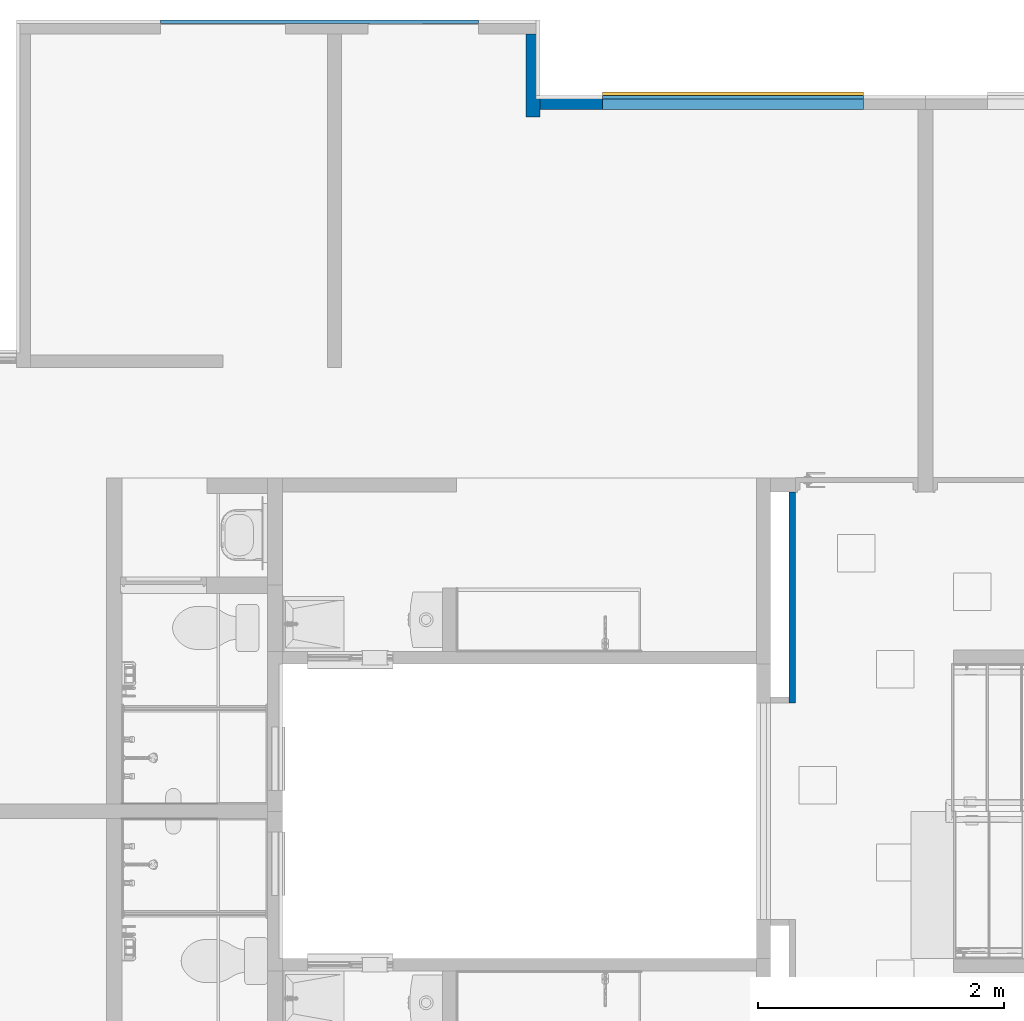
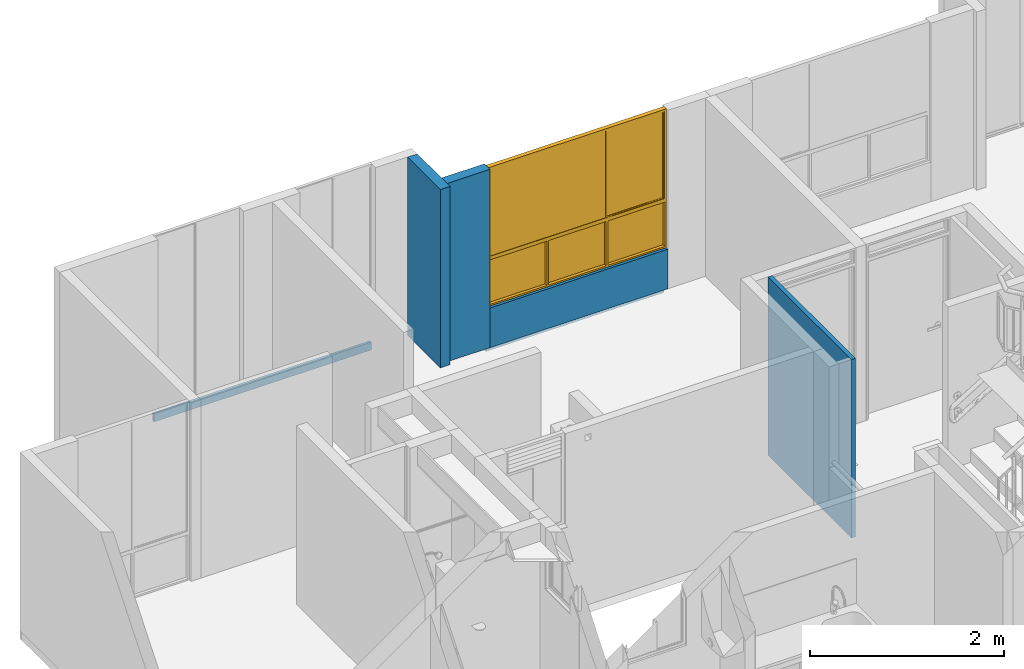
# One storey, part 19 of 48: 6 walls, 1 window, 1 opening.
"""IFC4 building model written with IfcOpenShell, lengths in metres."""

from ifc_helpers import new_model, entity, si_unit, converted_unit, derived_unit, direction, frame, origin, place, context, subcontext, project, spatial, indexed_curve, outline, extrude, polygons, source, transform, mapped, material, constituent, constituent_set, type_object, type_shapes, element, fill, save


model = new_model("IFC4")

# Units and contexts
model_context = context("Model", 3, precision=1e-05, world=origin(), true_north=direction((6.123031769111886e-17, 1.0)))
body_context = subcontext(model_context, "Body", "Model", "MODEL_VIEW")
ifc_project = project(units=[si_unit("LENGTHUNIT", "METRE"), si_unit("AREAUNIT", "SQUARE_METRE"), si_unit("VOLUMEUNIT", "CUBIC_METRE"), converted_unit("PLANEANGLEUNIT", "DEGREE", entity("IfcRatioMeasure", 0.017453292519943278), si_unit("PLANEANGLEUNIT", "RADIAN"), dimensions=[0, 0, 0, 0, 0, 0, 0]), si_unit("MASSUNIT", "GRAM", prefix="KILO"), derived_unit("MASSDENSITYUNIT", [(si_unit("MASSUNIT", "GRAM", prefix="KILO"), 1), (si_unit("LENGTHUNIT", "METRE"), -3)]), derived_unit("IONCONCENTRATIONUNIT", [(si_unit("MASSUNIT", "GRAM", prefix="KILO"), 1), (si_unit("LENGTHUNIT", "METRE"), -3)]), derived_unit("MOMENTOFINERTIAUNIT", [(si_unit("LENGTHUNIT", "METRE"), 4)]), si_unit("TIMEUNIT", "SECOND"), si_unit("FREQUENCYUNIT", "HERTZ"), si_unit("THERMODYNAMICTEMPERATUREUNIT", "DEGREE_CELSIUS"), derived_unit("THERMALTRANSMITTANCEUNIT", [(si_unit("MASSUNIT", "GRAM", prefix="KILO"), 1), (si_unit("THERMODYNAMICTEMPERATUREUNIT", "KELVIN"), -1), (si_unit("TIMEUNIT", "SECOND"), -3)]), derived_unit("THERMALCONDUCTANCEUNIT", [(si_unit("MASSUNIT", "GRAM", prefix="KILO"), 1), (si_unit("THERMODYNAMICTEMPERATUREUNIT", "KELVIN"), -1), (si_unit("TIMEUNIT", "SECOND"), -3), (si_unit("LENGTHUNIT", "METRE"), 1)]), derived_unit("VOLUMETRICFLOWRATEUNIT", [(si_unit("LENGTHUNIT", "METRE"), 3), (si_unit("TIMEUNIT", "SECOND"), -1)]), derived_unit("MASSFLOWRATEUNIT", [(si_unit("MASSUNIT", "GRAM", prefix="KILO"), 1), (si_unit("TIMEUNIT", "SECOND"), -1)]), derived_unit("ROTATIONALFREQUENCYUNIT", [(si_unit("TIMEUNIT", "SECOND"), -1)]), si_unit("ELECTRICCURRENTUNIT", "AMPERE"), si_unit("ELECTRICVOLTAGEUNIT", "VOLT"), si_unit("POWERUNIT", "WATT"), si_unit("FORCEUNIT", "NEWTON", prefix="KILO"), si_unit("ILLUMINANCEUNIT", "LUX"), si_unit("LUMINOUSFLUXUNIT", "LUMEN"), si_unit("LUMINOUSINTENSITYUNIT", "CANDELA"), derived_unit("USERDEFINED", [(si_unit("MASSUNIT", "GRAM", prefix="KILO"), -1), (si_unit("LENGTHUNIT", "METRE"), -2), (si_unit("TIMEUNIT", "SECOND"), 3), (si_unit("LUMINOUSFLUXUNIT", "LUMEN"), 1)]), derived_unit("USERDEFINED", [(si_unit("MASSUNIT", "GRAM", prefix="KILO"), 1), (si_unit("TIMEUNIT", "SECOND"), -3), (si_unit("LENGTHUNIT", "METRE"), 3), (si_unit("ELECTRICCURRENTUNIT", "AMPERE"), -2)]), derived_unit("SOUNDPOWERUNIT", [(si_unit("MASSUNIT", "GRAM", prefix="KILO"), 1), (si_unit("TIMEUNIT", "SECOND"), -3), (si_unit("LENGTHUNIT", "METRE"), 2)]), derived_unit("SOUNDPRESSUREUNIT", [(si_unit("MASSUNIT", "GRAM", prefix="KILO"), 1), (si_unit("LENGTHUNIT", "METRE"), -1), (si_unit("TIMEUNIT", "SECOND"), -2)]), derived_unit("LINEARVELOCITYUNIT", [(si_unit("LENGTHUNIT", "METRE"), 1), (si_unit("TIMEUNIT", "SECOND"), -1)]), si_unit("PRESSUREUNIT", "PASCAL"), derived_unit("USERDEFINED", [(si_unit("MASSUNIT", "GRAM", prefix="KILO"), 1), (si_unit("LENGTHUNIT", "METRE"), -2), (si_unit("TIMEUNIT", "SECOND"), -2)]), derived_unit("LINEARFORCEUNIT", [(si_unit("MASSUNIT", "GRAM", prefix="KILO"), 1), (si_unit("TIMEUNIT", "SECOND"), -2)]), derived_unit("PLANARFORCEUNIT", [(si_unit("MASSUNIT", "GRAM", prefix="KILO"), 1), (si_unit("LENGTHUNIT", "METRE"), -1), (si_unit("TIMEUNIT", "SECOND"), -2)]), derived_unit("SPECIFICHEATCAPACITYUNIT", [(si_unit("THERMODYNAMICTEMPERATUREUNIT", "KELVIN"), -1), (si_unit("LENGTHUNIT", "METRE"), 2), (si_unit("TIMEUNIT", "SECOND"), -2)]), derived_unit("HEATINGVALUEUNIT", [(si_unit("LENGTHUNIT", "METRE"), 2), (si_unit("TIMEUNIT", "SECOND"), -2)]), derived_unit("VAPORPERMEABILITYUNIT", [(si_unit("LENGTHUNIT", "METRE"), -1), (si_unit("TIMEUNIT", "SECOND"), 1)]), derived_unit("DYNAMICVISCOSITYUNIT", [(si_unit("MASSUNIT", "GRAM", prefix="KILO"), 1), (si_unit("TIMEUNIT", "SECOND"), -1), (si_unit("LENGTHUNIT", "METRE"), -1)]), derived_unit("THERMALEXPANSIONCOEFFICIENTUNIT", [(si_unit("THERMODYNAMICTEMPERATUREUNIT", "KELVIN"), -1)]), derived_unit("MODULUSOFELASTICITYUNIT", [(si_unit("MASSUNIT", "GRAM", prefix="KILO"), 1), (si_unit("LENGTHUNIT", "METRE"), -1), (si_unit("TIMEUNIT", "SECOND"), -2)]), derived_unit("ISOTHERMALMOISTURECAPACITYUNIT", [(si_unit("LENGTHUNIT", "METRE"), 3), (si_unit("MASSUNIT", "GRAM", prefix="KILO"), -1)]), derived_unit("MOISTUREDIFFUSIVITYUNIT", [(si_unit("TIMEUNIT", "SECOND"), -1), (si_unit("LENGTHUNIT", "METRE"), 2)])], contexts=[model_context])

# Site, building, storey
site_placement = place(None, origin())
site = spatial("IfcSite", under=ifc_project, at=site_placement, Name="Default", CompositionType="ELEMENT")
building_placement = place(site_placement, origin())
building = spatial("IfcBuilding", under=site, at=building_placement, CompositionType="ELEMENT")
storey_placement = place(building_placement, frame((0.0, 0.0, 4.700000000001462)))
storey = spatial("IfcBuildingStorey", under=building, at=storey_placement, Name="Nivel 3", CompositionType="ELEMENT", Elevation=4.700000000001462)

# Wall
ifc_material_1 = material(Name="Ladrillo claro (Aire)", Category="Materials")
wall_type_1 = type_object("IfcWallType", Name="Basic Wall:B2010 - 0.115m - Muro exterior en mampostería - Ladrillo", PredefinedType="STANDARD")
wall_1_placement = place(storey_placement, frame((6.124999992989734, -0.09500002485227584, 0.0), z_axis=(0.0, 0.0, 1.0), x_axis=(0.0, -1.0, 0.0)))
element("IfcWall", 1, at=wall_1_placement, inside=storey, type_object=wall_type_1, material=ifc_material_1, Name="Basic Wall:B2010 - 0.115m - Muro exterior en mampostería - Ladrillo", ObjectType="Basic Wall:B2010 - 0.115m - Muro exterior en mampostería - Ladrillo", PredefinedType="NOTDEFINED", context=body_context, shape_type="SweptSolid", body=[
    extrude(outline(indexed_curve([(0.674918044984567, 0.05749999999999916), (1.6929241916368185e-18, 0.057499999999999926), (-1.6929241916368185e-18, -0.057499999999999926), (0.674918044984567, -0.05750000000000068), (0.674918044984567, 0.05749999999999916)], self_intersect=False)), origin(), (0.0, 0.0, 1.0), 2.2500000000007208),
])

# Wall, opening, window
wall_2_placement = place(storey_placement, frame((6.692499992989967, -0.6525000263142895, 0.0)))
wall_2 = element("IfcWall", 2, at=wall_2_placement, inside=storey, type_object=wall_type_1, material=ifc_material_1, Name="Basic Wall:B2010 - 0.115m - Muro exterior en mampostería - Ladrillo", ObjectType="Basic Wall:B2010 - 0.115m - Muro exterior en mampostería - Ladrillo", PredefinedType="NOTDEFINED", context=body_context, shape_type="Tessellation", body=[
    polygons([(4.788365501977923e-16, -0.05750000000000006, -5.414335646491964e-16), (2.1249999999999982, -0.05750000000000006, -5.414335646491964e-16), (2.1249999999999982, -0.05750000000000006, 0.5000000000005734), (4.788365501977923e-16, -0.05750000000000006, 0.5000000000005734), (2.1249999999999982, 0.05749999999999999, -5.414335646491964e-16), (5.461691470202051e-16, 0.05749999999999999, -5.414335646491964e-16), (5.461691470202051e-16, 0.05749999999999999, 0.5000000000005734), (2.1249999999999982, 0.05749999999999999, 0.5000000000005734)], [[[1, 2, 3, 4]], [[5, 6, 7, 8]], [[2, 1, 6, 5]], [[2, 5, 8, 3]], [[6, 1, 4, 7]], [[4, 3, 8, 7]]], closed=True),
])
opening_placement = place(wall_2_placement, frame((0.0, -0.0575000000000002, 0.4999999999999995)))
opening = element("IfcOpeningElement", 3, at=opening_placement, cuts=wall_2, Name="B2020 - 6c Ventana corrediza - Aluminio + Vidrio:B2020 -2.13m x 1.750m - Ventana corrediza 2C - Aluminio + Vidrio:1", PredefinedType="OPENING", context=body_context, shape_type="SweptSolid", body=[
    extrude(outline(indexed_curve([(0.0, 2.125), (0.0, 0.0), (1.7499999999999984, 0.0), (1.7499999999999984, 2.125), (0.0, 2.125)], self_intersect=False)), frame((0.0, 0.0, 0.0), z_axis=(0.0, 1.0, 0.0), x_axis=(0.0, 0.0, 1.0)), (0.0, 0.0, 1.0), 0.115),
])
ifc_material_2 = material(Name="Aluminio", Category="Materials")
ifc_constituent_1 = constituent(ifc_material_2, Name="Aluminio", Category="Materials")
ifc_material_3 = material(Name="Vidrio", Category="Materials")
ifc_constituent_2 = constituent(ifc_material_3, Name="Vidrio", Category="Materials")
ifc_material_4 = material(Name="Alfajía en aluminio", Category="Materials")
ifc_constituent_3 = constituent(ifc_material_4, Name="Alfajía en aluminio", Category="Materials")
ifc_constituent_set_1 = constituent_set(constituents=[ifc_constituent_1, ifc_constituent_2, ifc_constituent_3])
ifc_constituent_4 = constituent(ifc_material_2, Name="Aluminio", Category="Materials")
ifc_constituent_5 = constituent(ifc_material_3, Name="Vidrio", Category="Materials")
ifc_constituent_6 = constituent(ifc_material_4, Name="Alfajía en aluminio", Category="Materials")
ifc_constituent_set_2 = constituent_set(constituents=[ifc_constituent_4, ifc_constituent_5, ifc_constituent_6])
window_type = type_object("IfcWindowType", Name="B2020 - 6c Ventana corrediza - Aluminio + Vidrio:B2020 -2.13m x 1.750m - Ventana corrediza 2C - Aluminio + Vidrio", PartitioningType="NOTDEFINED", PredefinedType="WINDOW", material=ifc_constituent_set_2)
shared_shape = source(origin(), body_context, "Body", "Tessellation", [
    polygons([(1.3916666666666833, 0.03749999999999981, 1.7249999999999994), (1.3916666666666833, 0.03749999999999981, 0.6249999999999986), (1.391666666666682, 0.032499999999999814, 0.6249999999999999), (1.3916666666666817, 0.032499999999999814, 1.7249999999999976), (-0.6833333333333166, 0.03249999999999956, 0.6249999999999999), (-0.6833333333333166, 0.032499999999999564, 1.7249999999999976), (-0.7083333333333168, 0.03249999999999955, 0.5999999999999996), (1.4166666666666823, 0.032499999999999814, 0.5999999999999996), (1.4166666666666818, 0.032499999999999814, 1.749999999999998), (-0.7083333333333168, 0.03249999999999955, 1.749999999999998), (-0.6833333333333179, 0.03749999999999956, 0.6249999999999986), (-0.6833333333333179, 0.03749999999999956, 1.7249999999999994), (-0.6883333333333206, 0.03749999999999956, 0.6199999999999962), (-0.6883333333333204, 0.03749999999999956, 1.7300000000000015), (1.3966666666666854, 0.03749999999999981, 1.7300000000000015), (1.3966666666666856, 0.03749999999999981, 0.6199999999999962), (1.3966666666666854, 0.05499999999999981, 1.7300000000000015), (1.3966666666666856, 0.05499999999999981, 0.6199999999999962), (-0.6883333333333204, 0.05499999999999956, 0.6199999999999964), (-0.6883333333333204, 0.05499999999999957, 1.7300000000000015), (-0.6833333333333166, 0.05499999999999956, 0.6249999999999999), (-0.6833333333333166, 0.05499999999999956, 1.7249999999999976), (1.3916666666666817, 0.05499999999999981, 1.7249999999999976), (1.391666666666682, 0.05499999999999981, 0.6249999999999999), (1.3916666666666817, 0.05999999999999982, 1.7249999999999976), (1.391666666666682, 0.05999999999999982, 0.6249999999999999), (-0.6833333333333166, 0.059999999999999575, 0.6249999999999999), (-0.6833333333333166, 0.059999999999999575, 1.7249999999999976), (-0.7033333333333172, 0.05999999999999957, 0.6049999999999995), (-0.7033333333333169, 0.05999999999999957, 1.744999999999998), (1.411666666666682, 0.05999999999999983, 1.744999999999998), (1.4116666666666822, 0.05999999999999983, 0.6049999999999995), (1.411666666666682, 0.07749999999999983, 1.744999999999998), (1.4116666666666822, 0.07749999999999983, 0.6049999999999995), (-0.7033333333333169, 0.07749999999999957, 0.6049999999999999), (-0.7033333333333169, 0.07749999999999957, 1.744999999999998), (-0.6833333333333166, 0.07749999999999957, 0.6249999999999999), (-0.6833333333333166, 0.07749999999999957, 1.7249999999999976), (1.3916666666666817, 0.07749999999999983, 1.7249999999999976), (1.391666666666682, 0.07749999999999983, 0.6249999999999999), (1.3916666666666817, 0.08249999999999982, 1.7249999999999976), (1.391666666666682, 0.08249999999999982, 0.6249999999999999), (-0.6833333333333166, 0.08249999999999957, 0.6249999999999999), (-0.6833333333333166, 0.08249999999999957, 1.7249999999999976), (-0.7083333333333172, 0.08249999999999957, 0.5999999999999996), (-0.7083333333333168, 0.08249999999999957, 1.749999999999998), (1.4166666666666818, 0.08249999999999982, 1.749999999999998), (1.4166666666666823, 0.08249999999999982, 0.5999999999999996)], [[[1, 2, 3, 4]], [[7, 8, 9, 10], [5, 6, 4, 3]], [[2, 11, 5, 3]], [[13, 14, 15, 16], [11, 2, 1, 12]], [[17, 18, 16, 15]], [[18, 19, 13, 16]], [[19, 18, 17, 20], [21, 22, 23, 24]], [[25, 26, 24, 23]], [[26, 27, 21, 24]], [[29, 30, 31, 32], [27, 26, 25, 28]], [[33, 34, 32, 31]], [[34, 35, 29, 32]], [[35, 34, 33, 36], [37, 38, 39, 40]], [[41, 42, 40, 39]], [[42, 43, 37, 40]], [[45, 46, 47, 48], [43, 42, 41, 44]], [[9, 8, 48, 47]], [[8, 7, 45, 48]], [[11, 12, 6, 5]], [[19, 20, 14, 13]], [[27, 28, 22, 21]], [[35, 36, 30, 29]], [[43, 44, 38, 37]], [[7, 10, 46, 45]], [[12, 1, 4, 6]], [[20, 17, 15, 14]], [[28, 25, 23, 22]], [[36, 33, 31, 30]], [[44, 41, 39, 38]], [[10, 9, 47, 46]]], closed=True),
    polygons([(-0.009999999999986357, 0.08249999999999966, 0.6249999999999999), (0.010000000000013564, 0.08249999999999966, 0.6249999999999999), (0.010000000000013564, 0.05999999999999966, 0.6249999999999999), (-0.009999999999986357, 0.05999999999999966, 0.6249999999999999), (-0.009999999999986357, 0.08249999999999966, 1.7249999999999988), (-0.009999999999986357, 0.05999999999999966, 1.7249999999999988), (0.010000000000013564, 0.05999999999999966, 1.7249999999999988), (0.010000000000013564, 0.08249999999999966, 1.7249999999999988)], [[[1, 2, 3, 4]], [[5, 1, 4, 6]], [[6, 4, 3, 7]], [[7, 3, 2, 8]], [[8, 2, 1, 5]], [[5, 6, 7, 8]]], closed=True),
    polygons([(0.7108333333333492, 0.06674999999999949, 1.7299999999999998), (-0.6833333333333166, 0.06674999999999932, 1.7299999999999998), (-0.6833333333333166, 0.06674999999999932, 0.6174999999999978), (0.7108333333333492, 0.06674999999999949, 0.6174999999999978), (0.7108333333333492, 0.0707499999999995, 0.6174999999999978), (0.7108333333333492, 0.0707499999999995, 1.7299999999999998), (-0.6833333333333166, 0.07074999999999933, 0.6174999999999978), (-0.6833333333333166, 0.07074999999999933, 1.7299999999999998)], [[[1, 2, 3, 4]], [[4, 5, 6, 1]], [[3, 7, 5, 4]], [[2, 8, 7, 3]], [[6, 5, 7, 8]], [[1, 6, 8, 2]]], closed=True),
    polygons([(0.7108333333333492, 0.07074999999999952, 0.6225000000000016), (-0.6783333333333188, 0.07074999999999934, 0.6225000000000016), (-0.6783333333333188, 0.06674999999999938, 0.6225000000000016), (0.7108333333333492, 0.06674999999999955, 0.6225000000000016), (-0.6783333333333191, 0.07074999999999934, 1.730000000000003), (-0.6783333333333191, 0.06674999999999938, 1.730000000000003), (0.7108333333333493, 0.06674999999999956, 1.730000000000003), (-0.6633333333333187, 0.06674999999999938, 1.7150000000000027), (-0.6633333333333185, 0.06674999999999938, 0.637500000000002), (0.695833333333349, 0.06674999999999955, 0.637500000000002), (0.695833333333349, 0.06674999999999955, 1.7150000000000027), (0.7108333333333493, 0.07074999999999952, 1.730000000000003), (-0.6633333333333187, 0.07074999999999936, 0.637500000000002), (-0.6633333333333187, 0.07074999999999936, 1.7150000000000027), (0.695833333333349, 0.07074999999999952, 1.7150000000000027), (0.695833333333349, 0.07074999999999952, 0.6375000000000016), (0.695833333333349, 0.07549999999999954, 0.637500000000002), (-0.6633333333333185, 0.07549999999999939, 0.6375000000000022), (-0.6633333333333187, 0.07549999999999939, 1.7150000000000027), (0.695833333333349, 0.07549999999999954, 1.7150000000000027), (-0.6833333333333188, 0.07549999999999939, 0.6175000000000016), (-0.683333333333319, 0.07549999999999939, 1.735000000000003), (0.7158333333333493, 0.07549999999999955, 1.735000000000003), (0.7158333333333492, 0.07549999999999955, 0.6175000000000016), (0.7158333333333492, 0.06199999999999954, 0.6175000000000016), (-0.6833333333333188, 0.061999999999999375, 0.6175000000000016), (-0.683333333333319, 0.061999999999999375, 1.735000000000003), (0.7158333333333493, 0.06199999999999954, 1.735000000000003), (-0.6633333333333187, 0.06199999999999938, 0.637500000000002), (-0.6633333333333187, 0.06199999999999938, 1.7150000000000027), (0.695833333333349, 0.06199999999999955, 1.7150000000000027), (0.695833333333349, 0.06199999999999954, 0.6375000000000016)], [[[1, 2, 3, 4]], [[2, 5, 6, 3]], [[3, 6, 7, 4], [8, 9, 10, 11]], [[5, 2, 1, 12], [13, 14, 15, 16]], [[17, 18, 13, 16]], [[18, 19, 14, 13]], [[21, 22, 23, 24], [19, 18, 17, 20]], [[25, 26, 21, 24]], [[26, 27, 22, 21]], [[27, 26, 25, 28], [29, 30, 31, 32]], [[10, 9, 29, 32]], [[9, 8, 30, 29]], [[12, 1, 4, 7]], [[20, 17, 16, 15]], [[28, 25, 24, 23]], [[11, 10, 32, 31]], [[5, 12, 7, 6]], [[19, 20, 15, 14]], [[27, 28, 23, 22]], [[8, 11, 31, 30]]], closed=True),
    polygons([(1.3916666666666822, 0.04424999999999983, 1.7299999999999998), (0.7033333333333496, 0.04424999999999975, 1.7299999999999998), (0.7033333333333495, 0.04424999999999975, 0.6174999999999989), (1.391666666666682, 0.04424999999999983, 0.6174999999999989), (1.391666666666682, 0.04824999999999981, 0.6174999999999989), (1.3916666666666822, 0.04824999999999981, 1.7299999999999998), (0.7033333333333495, 0.048249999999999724, 0.6174999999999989), (0.7033333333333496, 0.048249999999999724, 1.7299999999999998)], [[[1, 2, 3, 4]], [[4, 5, 6, 1]], [[3, 7, 5, 4]], [[2, 8, 7, 3]], [[6, 5, 7, 8]], [[1, 6, 8, 2]]], closed=True),
    polygons([(1.391666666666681, 0.04824999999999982, 0.6224999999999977), (0.7033333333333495, 0.04824999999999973, 0.6224999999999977), (0.7033333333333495, 0.044249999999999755, 0.6224999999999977), (1.391666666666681, 0.04424999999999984, 0.6224999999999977), (0.7033333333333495, 0.04824999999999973, 1.729999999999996), (0.7033333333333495, 0.044249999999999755, 1.729999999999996), (1.391666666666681, 0.04424999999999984, 1.729999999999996), (0.7183333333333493, 0.044249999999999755, 1.714999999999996), (0.7183333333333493, 0.044249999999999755, 0.6374999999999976), (1.3766666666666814, 0.04424999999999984, 0.6374999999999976), (1.3766666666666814, 0.04424999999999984, 1.714999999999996), (1.391666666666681, 0.04824999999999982, 1.729999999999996), (0.7183333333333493, 0.04824999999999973, 0.6374999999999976), (0.7183333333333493, 0.04824999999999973, 1.714999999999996), (1.3766666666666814, 0.04824999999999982, 1.714999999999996), (1.3766666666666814, 0.04824999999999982, 0.6374999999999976), (1.3766666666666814, 0.052999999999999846, 0.6374999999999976), (0.7183333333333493, 0.05299999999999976, 0.6374999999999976), (0.7183333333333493, 0.05299999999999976, 1.714999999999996), (1.3766666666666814, 0.052999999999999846, 1.714999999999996), (0.6983333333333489, 0.052999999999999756, 0.6174999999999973), (0.6983333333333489, 0.05299999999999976, 1.7349999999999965), (1.3966666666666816, 0.052999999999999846, 1.7349999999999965), (1.3966666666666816, 0.052999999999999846, 0.6174999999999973), (1.3966666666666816, 0.03949999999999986, 0.6174999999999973), (0.6983333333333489, 0.03949999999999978, 0.6174999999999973), (0.6983333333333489, 0.03949999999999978, 1.7349999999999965), (1.3966666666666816, 0.03949999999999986, 1.7349999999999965), (0.7183333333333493, 0.039499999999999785, 0.6374999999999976), (0.7183333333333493, 0.03949999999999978, 1.714999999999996), (1.3766666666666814, 0.039499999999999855, 1.714999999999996), (1.3766666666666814, 0.039499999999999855, 0.6374999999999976)], [[[1, 2, 3, 4]], [[2, 5, 6, 3]], [[3, 6, 7, 4], [8, 9, 10, 11]], [[5, 2, 1, 12], [13, 14, 15, 16]], [[17, 18, 13, 16]], [[18, 19, 14, 13]], [[21, 22, 23, 24], [19, 18, 17, 20]], [[25, 26, 21, 24]], [[26, 27, 22, 21]], [[27, 26, 25, 28], [29, 30, 31, 32]], [[10, 9, 29, 32]], [[9, 8, 30, 29]], [[12, 1, 4, 7]], [[20, 17, 16, 15]], [[28, 25, 24, 23]], [[11, 10, 32, 31]], [[5, 12, 7, 6]], [[19, 20, 15, 14]], [[27, 28, 23, 22]], [[8, 11, 31, 30]]], closed=True),
    polygons([(-0.6883333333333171, 0.04424999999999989, 1.7299999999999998), (-0.6883333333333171, 0.04424999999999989, 0.6174999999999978), (1.3916666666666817, 0.04424999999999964, 0.6174999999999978), (1.3916666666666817, 0.04424999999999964, 1.7299999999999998), (1.3916666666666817, 0.04824999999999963, 0.6174999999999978), (1.3916666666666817, 0.04824999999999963, 1.7299999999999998), (-0.6883333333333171, 0.04824999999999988, 0.6174999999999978), (-0.6883333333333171, 0.04824999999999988, 1.7299999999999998)], [[[1, 2, 3, 4]], [[3, 5, 6, 4]], [[2, 7, 5, 3]], [[1, 8, 7, 2]], [[8, 6, 5, 7]], [[4, 6, 8, 1]]], closed=True),
    polygons([(1.3966666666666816, 0.06674999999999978, 1.7299999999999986), (-0.6883333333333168, 0.06674999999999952, 1.7299999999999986), (-0.6883333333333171, 0.06674999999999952, 0.6174999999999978), (1.3966666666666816, 0.06674999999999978, 0.6174999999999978), (1.3966666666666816, 0.07074999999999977, 0.6174999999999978), (1.3966666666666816, 0.07074999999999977, 1.7299999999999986), (-0.6883333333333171, 0.07074999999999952, 0.6174999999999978), (-0.6883333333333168, 0.07074999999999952, 1.7299999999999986)], [[[1, 2, 3, 4]], [[4, 5, 6, 1]], [[3, 7, 5, 4]], [[2, 8, 7, 3]], [[6, 5, 7, 8]], [[1, 6, 8, 2]]], closed=True),
    polygons([(1.3966666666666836, 0.06813901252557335, 0.5800000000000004), (-0.6883333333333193, 0.06813901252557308, 0.5800000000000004), (-0.6883333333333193, 0.06813901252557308, 0.019999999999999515), (1.3966666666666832, 0.06813901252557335, 0.019999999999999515), (1.3966666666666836, 0.07213901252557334, 0.5800000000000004), (1.3966666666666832, 0.07213901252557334, 0.019999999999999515), (-0.6883333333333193, 0.07213901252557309, 0.019999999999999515), (-0.6883333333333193, 0.07213901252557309, 0.5800000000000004)], [[[1, 2, 3, 4]], [[5, 6, 7, 8]], [[4, 6, 5, 1]], [[3, 7, 6, 4]], [[2, 8, 7, 3]], [[1, 5, 8, 2]]], closed=True),
    polygons([(-0.009999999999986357, 0.08250000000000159, 0.5799999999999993), (-0.009999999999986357, 0.03250000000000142, 0.5799999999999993), (0.010000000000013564, 0.03250000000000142, 0.5799999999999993), (0.010000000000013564, 0.08250000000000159, 0.5799999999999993), (-0.009999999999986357, 0.08250000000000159, 0.019999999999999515), (0.010000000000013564, 0.08250000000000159, 0.019999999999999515), (0.010000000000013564, 0.03250000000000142, 0.019999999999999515), (-0.009999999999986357, 0.03250000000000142, 0.019999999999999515)], [[[1, 2, 3, 4]], [[5, 6, 7, 8]], [[4, 6, 5, 1]], [[3, 7, 6, 4]], [[2, 8, 7, 3]], [[1, 5, 8, 2]]], closed=True),
    polygons([(1.4166666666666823, 0.08249999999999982, 2.707167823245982e-16), (-0.7083333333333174, 0.08249999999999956, 4.060751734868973e-16), (-0.7083333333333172, 0.08249999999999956, 0.5999999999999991), (1.4166666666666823, 0.08249999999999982, 0.5999999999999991), (0.6983333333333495, 0.08250000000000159, 0.5799999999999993), (-0.6883333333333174, 0.0825000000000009, 0.5799999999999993), (-0.6883333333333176, 0.0825000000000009, 0.020000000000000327), (0.6983333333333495, 0.08250000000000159, 0.01999999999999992), (0.7183333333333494, 0.08250000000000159, 0.01999999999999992), (1.3966666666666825, 0.08250000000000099, 0.020000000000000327), (1.3966666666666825, 0.08250000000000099, 0.5799999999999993), (0.7183333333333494, 0.08250000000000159, 0.5799999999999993), (0.7183333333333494, 0.03250000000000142, 0.5799999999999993), (0.7183333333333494, 0.03250000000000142, 0.01999999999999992), (1.4166666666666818, 0.03250000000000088, 0.5999999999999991), (-0.7083333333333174, 0.0325000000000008, 0.5999999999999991), (-0.7083333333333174, 0.0325000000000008, 4.060751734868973e-16), (1.4166666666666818, 0.03250000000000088, 4.060751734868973e-16), (1.3966666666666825, 0.032499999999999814, 0.5799999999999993), (1.3966666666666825, 0.032499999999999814, 0.020000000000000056), (0.6983333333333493, 0.03250000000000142, 0.01999999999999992), (-0.6883333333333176, 0.03249999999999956, 0.020000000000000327), (-0.6883333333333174, 0.03249999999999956, 0.5799999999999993), (0.6983333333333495, 0.03250000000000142, 0.5799999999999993)], [[[1, 2, 3, 4], [5, 6, 7, 8], [9, 10, 11, 12]], [[12, 13, 14, 9]], [[15, 16, 17, 18], [13, 19, 20, 14], [21, 22, 23, 24]], [[8, 21, 24, 5]], [[11, 10, 20, 19]], [[15, 18, 1, 4]], [[10, 9, 14, 20]], [[18, 17, 2, 1]], [[7, 6, 23, 22]], [[17, 16, 3, 2]], [[6, 5, 24, 23]], [[4, 3, 16, 15]], [[19, 13, 12, 11]], [[22, 21, 8, 7]]], closed=True),
    polygons([(0.6983333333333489, 0.07213901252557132, 0.5849999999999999), (-0.6883333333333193, 0.07213901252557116, 0.5849999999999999), (-0.6883333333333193, 0.06813901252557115, 0.5849999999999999), (0.6983333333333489, 0.06813901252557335, 0.5849999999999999), (0.6983333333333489, 0.07213901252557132, 0.019999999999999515), (0.6983333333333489, 0.06813901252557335, 0.019999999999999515), (-0.6883333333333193, 0.06813901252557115, 0.019999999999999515), (-0.6883333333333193, 0.07213901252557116, 0.019999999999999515)], [[[1, 2, 3, 4]], [[5, 6, 7, 8]], [[1, 5, 8, 2]], [[2, 8, 7, 3]], [[3, 7, 6, 4]], [[4, 6, 5, 1]]], closed=True),
    polygons([(1.4166666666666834, 0.11499999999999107, -4.060751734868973e-16), (1.416666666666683, 0.1409807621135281, -0.015000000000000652), (1.416666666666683, 0.14348076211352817, -0.010669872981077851), (1.4166666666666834, 0.11633974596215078, 0.0049999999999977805), (1.4166666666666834, 0.08249999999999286, 0.0049999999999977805), (1.4166666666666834, 0.08249999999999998, -4.060751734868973e-16), (-0.7083333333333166, 0.11499999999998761, -4.060751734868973e-16), (-0.7083333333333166, 0.08249999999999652, -4.060751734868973e-16), (-0.7083333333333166, 0.0824999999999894, 0.0049999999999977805), (-0.7083333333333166, 0.11633974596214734, 0.0049999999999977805), (-0.7083333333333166, 0.1434807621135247, -0.010669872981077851), (-0.7083333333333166, 0.14098076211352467, -0.015000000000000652)], [[[1, 2, 3, 4, 5, 6]], [[7, 8, 9, 10, 11, 12]], [[6, 8, 7, 1]], [[5, 9, 8, 6]], [[4, 10, 9, 5]], [[3, 11, 10, 4]], [[2, 12, 11, 3]], [[1, 7, 12, 2]]], closed=True),
    polygons([(0.7183333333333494, 0.07213901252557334, 0.5849999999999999), (0.7183333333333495, 0.06813901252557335, 0.5849999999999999), (1.3966666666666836, 0.06813901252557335, 0.5849999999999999), (1.3966666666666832, 0.07213901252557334, 0.5849999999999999), (0.7183333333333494, 0.07213901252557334, 0.019999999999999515), (1.3966666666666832, 0.07213901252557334, 0.019999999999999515), (1.3966666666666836, 0.06813901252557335, 0.019999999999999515), (0.7183333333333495, 0.06813901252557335, 0.019999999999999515)], [[[1, 2, 3, 4]], [[5, 6, 7, 8]], [[4, 6, 5, 1]], [[3, 7, 6, 4]], [[2, 8, 7, 3]], [[1, 5, 8, 2]]], closed=True),
])
type_shapes(window_type, [shared_shape])
window_placement = place(opening_placement, frame((0.7083333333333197, 0.0, 0.0)))
window = element("IfcWindow", 4, at=window_placement, inside=storey, type_object=window_type, material=ifc_constituent_set_1, Name="B2020 - 6c Ventana corrediza - Aluminio + Vidrio:B2020 -2.13m x 1.750m - Ventana corrediza 2C - Aluminio + Vidrio", ObjectType="B2020 - 6c Ventana corrediza - Aluminio + Vidrio:B2020 -2.13m x 1.750m - Ventana corrediza 2C - Aluminio + Vidrio", OverallHeight=1.7499999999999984, OverallWidth=2.125, PartitioningType="NOTDEFINED", PredefinedType="WINDOW", context=body_context, shape_type="MappedRepresentation", body=[
    mapped(shared_shape, transform((0.0, 0.0, 0.0), scale=1.0)),
])
fill(opening, window)

# Walls
ifc_material_5 = material(Name="LADRILLO CLARO", Category="Materials")
wall_type_2 = type_object("IfcWallType", Name="Basic Wall:B2010 - 0.115m - ME mampostería no estructural - Ladrillo", PredefinedType="STANDARD")
wall_3_placement = place(storey_placement, frame((6.1824999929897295, -0.652500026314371, 0.0)))
element("IfcWall", 5, at=wall_3_placement, inside=storey, type_object=wall_type_2, material=ifc_material_5, Name="Basic Wall:B2010 - 0.115m - ME mampostería no estructural - Ladrillo", ObjectType="Basic Wall:B2010 - 0.115m - ME mampostería no estructural - Ladrillo", PredefinedType="NOTDEFINED", context=body_context, shape_type="SweptSolid", body=[
    extrude(outline(indexed_curve([(0.5100000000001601, 0.0574999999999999), (-1.646998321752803e-16, 0.057499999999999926), (1.6469983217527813e-16, -0.05750000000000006), (0.5100000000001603, -0.057500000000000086), (0.5100000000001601, 0.0574999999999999)], self_intersect=False)), origin(), (0.0, 0.0, 1.0), 2.2500000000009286),
])
ifc_material_6 = material(Name="0 muro divisorio", Category="Materials")
wall_type_3 = type_object("IfcWallType", Name="Basic Wall:B2010 - 0.05m - MI No estructural- Concreto", PredefinedType="STANDARD")
wall_4_placement = place(storey_placement, frame((8.237500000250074, -5.545000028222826, 0.0), z_axis=(0.0, 0.0, 1.0), x_axis=(0.0, 1.0, 0.0)))
element("IfcWall", 6, at=wall_4_placement, inside=storey, type_object=wall_type_3, material=ifc_material_6, Name="Basic Wall:B2010 - 0.05m - MI No estructural- Concreto", ObjectType="Basic Wall:B2010 - 0.05m - MI No estructural- Concreto", PredefinedType="NOTDEFINED", context=body_context, shape_type="SweptSolid", body=[
    extrude(outline(indexed_curve([(1.7199999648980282, 0.0249999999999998), (-1.2688523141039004e-16, 0.02499999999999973), (1.2688523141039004e-16, -0.02499999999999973), (1.7199999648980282, -0.024999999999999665), (1.7199999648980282, 0.0249999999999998)], self_intersect=False)), origin(), (0.0, 0.0, 1.0), 2.2499999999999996),
])
wall_type_4 = type_object("IfcWallType", Name="Basic Wall:B2010 - 0.03m - ME enchape  no estructural - Ladrillo", PredefinedType="STANDARD")
wall_5_placement = place(storey_placement, frame((5.68249999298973, 0.004999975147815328, -0.1000000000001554), z_axis=(0.0, 0.0, 1.0), x_axis=(-1.0, 0.0, 0.0)))
element("IfcWall", 7, at=wall_5_placement, inside=storey, type_object=wall_type_4, material=ifc_material_5, Name="Basic Wall:B2010 - 0.03m - ME enchape  no estructural - Ladrillo", ObjectType="Basic Wall:B2010 - 0.03m - ME enchape  no estructural - Ladrillo", PredefinedType="NOTDEFINED", context=body_context, shape_type="SweptSolid", body=[
    extrude(outline(indexed_curve([(2.5899999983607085, 0.015), (-1.4243869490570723e-16, 0.015), (1.424386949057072e-16, -0.014999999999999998), (2.5899999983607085, -0.015), (2.5899999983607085, 0.015)], self_intersect=False)), origin(), (0.0, 0.0, 1.0), 0.1),
])
wall_6_placement = place(storey_placement, frame((8.817500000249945, -0.6100000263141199, -0.1000000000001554), z_axis=(0.0, 0.0, 1.0), x_axis=(-1.0, 0.0, 0.0)))
element("IfcWall", 8, at=wall_6_placement, inside=storey, type_object=wall_type_4, material=ifc_material_5, Name="Basic Wall:B2010 - 0.03m - ME enchape  no estructural - Ladrillo", ObjectType="Basic Wall:B2010 - 0.03m - ME enchape  no estructural - Ladrillo", PredefinedType="NOTDEFINED", context=body_context, shape_type="SweptSolid", body=[
    extrude(outline(indexed_curve([(2.125000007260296, 0.014999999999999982), (-5.3566291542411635e-17, 0.014999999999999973), (5.356629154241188e-17, -0.015000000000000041), (2.125000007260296, -0.015000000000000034), (2.125000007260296, 0.014999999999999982)], self_intersect=False)), origin(), (0.0, 0.0, 1.0), 0.1),
])

save(model, "model.ifc")
